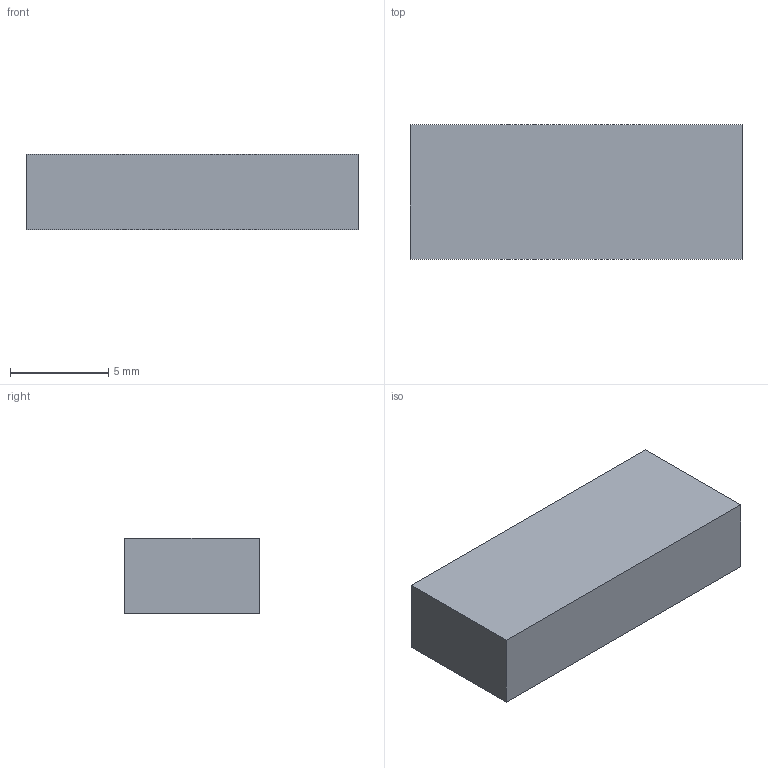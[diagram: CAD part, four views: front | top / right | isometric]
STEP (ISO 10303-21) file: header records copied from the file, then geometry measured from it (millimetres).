
FILE_DESCRIPTION(('Open CASCADE Model'),'2;1');
FILE_NAME('Open CASCADE Shape Model','2026-10-06T03:35:42',('Author'),( 'Open CASCADE'),'Open CASCADE STEP processor 7.8','Open CASCADE 7.8' ,'Unknown');
FILE_SCHEMA(('AUTOMOTIVE_DESIGN { 1 0 10303 214 1 1 1 1 }'));
Length unit declared in the file: millimetre
Products named in the file (1): Open CASCADE STEP translator 7.8 29
Bounding box: 16.89 x 6.85 x 3.86 mm (x, y, z)
Volume: 446.6 mm3; surface area: 414.7 mm2
Topology: 1 solids, 1 shells, 6 faces, 12 edges, 8 vertices
Faces by surface type: plane 6
Entity records: 322 total; most frequent: CARTESIAN_POINT 51, DIRECTION 50, LINE 36, VECTOR 36, ORIENTED_EDGE 24, PCURVE 24, DEFINITIONAL_REPRESENTATION 24, EDGE_CURVE 12
